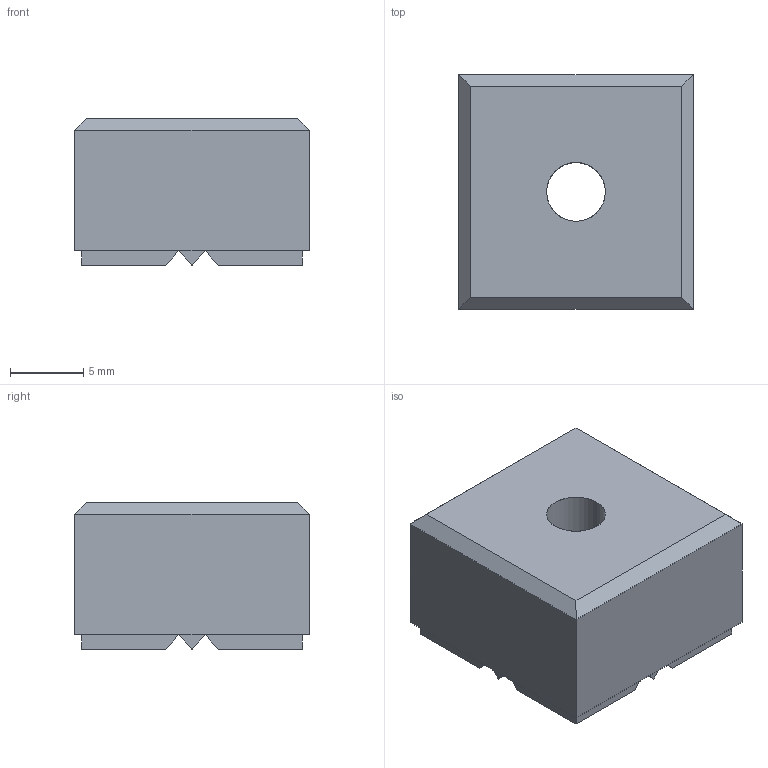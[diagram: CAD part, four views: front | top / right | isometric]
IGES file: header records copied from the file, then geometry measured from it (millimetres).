
Start section: SolidWorks IGES FILE using analytic representation for surfaces
Global section: file name: C:\WIX2\Positioning\3549\3549W007.igs; native system: SolidWorks 2003 by SolidWorks Corporation; preprocessor: Version 5.3; author: Joan; date: 030722.164430; units: millimetre
Bounding box: 16 x 16 x 10 mm (x, y, z)
Surface area: 1277.1 mm2 (no closed solid volume)
Topology: 0 solids, 0 shells, 47 faces, 338 edges, 338 vertices
Faces by surface type: bspline 43, revolution 4
